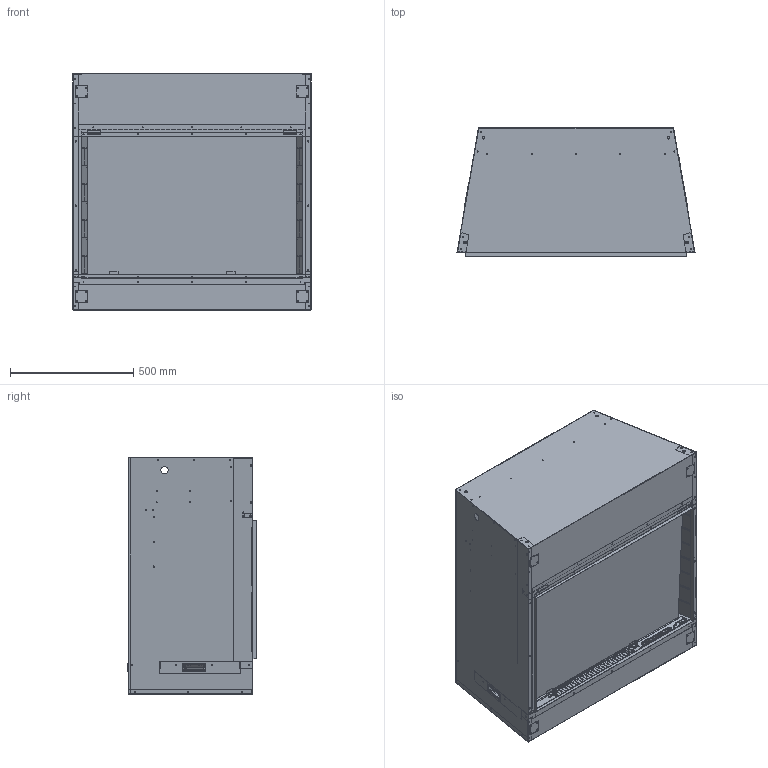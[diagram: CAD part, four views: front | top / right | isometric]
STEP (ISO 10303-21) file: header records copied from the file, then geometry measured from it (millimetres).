
FILE_DESCRIPTION((''),'2;1');
FILE_NAME('0051_ASM','2026-05-30T10:39:47',('Lenovo'),(''),'CREO PARAMETRIC BY PTC INC, 2022073','CREO PARAMETRIC BY PTC INC, 2022073','');
FILE_SCHEMA(('CONFIG_CONTROL_DESIGN'));
Products named in the file (65): 00; 0052; 0018; 0053; PRT0015; 0001_ASM; 0055; 0056; PRT0003; 20002; 20001_ASM; 0058; AJH__; PCB0004_ASM; _0001; _0002; PCB0003; 0057_ASM; 0060; PRT0010; 0035; 0061; 20003; 0021_ASM; 0062; PRT0002; 0063; 0054_ASM; 0012_ASM; 0064_ASM; 0065; 0066; 0020; 0068; 0069; 0067_ASM; _MIR0004; _MIR0005; ASM0001_ASM; 0070_ASM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
Assembly tree (68 placements, depth 6):
  0051_ASM
    0001_ASM
      00
      0052
      0018
      0053
      PRT0015
    0054_ASM
      0021_ASM
        0055
        0056
        PRT0003
        20002
        20001_ASM
        0057_ASM
          0058
          PCB0004_ASM
            AJH__
          00
          _0001
          _0002
          PCB0003
        0060
        PRT0010
        0035
        0061  x2
        20003
      0062
      PRT0002
      0063
    0012_ASM
      00
    0064_ASM
    0065
    0066
    0020
    0067_ASM
      0068
      0069
    ASM0001_ASM
      _MIR0004
      _MIR0005
    0070_ASM
      00
    0040_ASM
    0072_ASM
    0073_ASM
    0003_ASM
      0074
      0075_ASM
        JXG
      TISHOU
    PRT0012
    0076  x2
    0006
    PRT0014
    PRT0008
    00
    PRT0013
    0046  x2
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Bounding box: 965.59 x 522.54 x 960 mm (x, y, z)
Volume: 12126363.4 mm3; surface area: 12701743.2 mm2
Topology: 55 solids, 55 shells, 4530 faces, 11973 edges, 7502 vertices
Faces by surface type: plane 2774, cylinder 1564, bspline 125, torus 34, cone 28, extrusion 3, sphere 2
Entity records: 133725 total; most frequent: CARTESIAN_POINT 30139, ORIENTED_EDGE 21304, DIRECTION 20927, EDGE_CURVE 10652, VECTOR 7227, LINE 7224, AXIS2_PLACEMENT_3D 6850, VERTEX_POINT 6638
